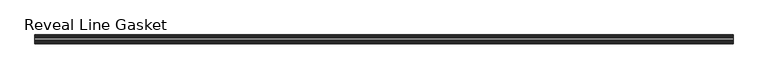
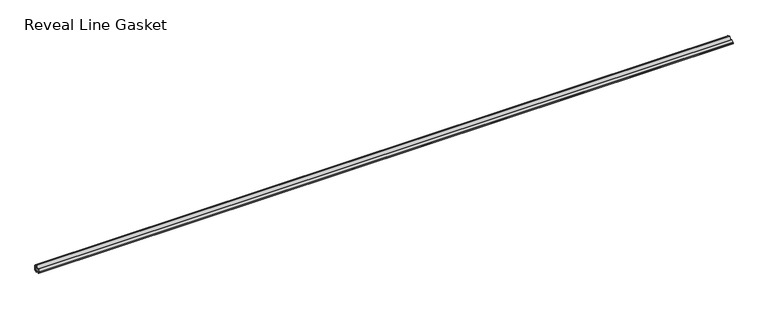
"""IFC4 building model written with IfcOpenShell, lengths in millimetres: proxy geometry, Accessories-Teknion-FHGR-AI_Healthcare-Reveal_Line_Gasket(Horizontal)-R2022 : Reveal Line Gasket."""

from ifc_helpers import new_model, si_unit, point, frame, frame_2d, origin, place, context, project, spatial, polyline, circle_curve, trimmed, segment, composite_curve, outline, extrude, source, transform, mapped, element, save


def reveal_line_gasket_ab5276f5(model_context):
    return source(origin(), model_context, "Body", "SweptSolid", [
        extrude(outline(composite_curve([segment(polyline([(7.6326998, 1603.2), (7.6326998, 1597.2), (7.4091917, 1596.2445073), (6.8813059, 1595.3115316)]), True, "CONTINUOUS"), segment(trimmed(circle_curve(frame_2d((6.5243141, 1595.5135207)), 0.4101739), [point((6.8813059, 1595.3115316))], [point((6.1246704, 1595.6058653))], False, "CARTESIAN"), True, "CONTINUOUS"), segment(polyline([(6.1246704, 1595.6058653), (6.3626997, 1597.3020914), (6.3626997, 1599.3345473)]), True, "CONTINUOUS"), segment(trimmed(circle_curve(frame_2d((5.6959605, 1598.9180742)), 0.786124), [point((6.3626997, 1599.3345473))], [point((5.0926996, 1599.422125))], True, "CARTESIAN"), True, "CONTINUOUS"), segment(polyline([(5.0926996, 1599.422125), (0.7492996, 1599.422125), (3.7293824, 1594.2604705)]), True, "CONTINUOUS"), segment(trimmed(circle_curve(frame_2d((3.3132479, 1594.1950239)), 0.4212495), [point((3.7293824, 1594.2604705))], [point((3.0485022, 1593.8673642))], False, "CARTESIAN"), True, "CONTINUOUS"), segment(polyline([(3.0485022, 1593.8673642), (-0.5742594, 1599.422125), (-4.8262978, 1599.422125), (-3.1660374, 1596.5464703)]), True, "CONTINUOUS"), segment(trimmed(circle_curve(frame_2d((-3.5978728, 1596.4881145)), 0.4357605), [point((-3.1660374, 1596.5464703))], [point((-3.864328, 1596.1433119))], False, "CARTESIAN"), True, "CONTINUOUS"), segment(polyline([(-3.864328, 1596.1433119), (-6.1944059, 1599.422125), (-7.6326998, 1599.422125), (-7.6326998, 1600.977875), (-6.1944059, 1600.977875), (-3.864328, 1604.2566881)]), True, "CONTINUOUS"), segment(trimmed(circle_curve(frame_2d((-3.5978728, 1603.9118855)), 0.4357605), [point((-3.864328, 1604.2566881))], [point((-3.1660374, 1603.8535297))], False, "CARTESIAN"), True, "CONTINUOUS"), segment(polyline([(-3.1660374, 1603.8535297), (-4.8262978, 1600.977875), (-0.5742594, 1600.977875), (3.0485022, 1606.5326358)]), True, "CONTINUOUS"), segment(trimmed(circle_curve(frame_2d((3.3132479, 1606.2049761)), 0.4212495), [point((3.0485022, 1606.5326358))], [point((3.7293824, 1606.1395295))], False, "CARTESIAN"), True, "CONTINUOUS"), segment(polyline([(3.7293824, 1606.1395295), (0.7492996, 1600.977875), (5.0926996, 1600.977875)]), True, "CONTINUOUS"), segment(trimmed(circle_curve(frame_2d((5.6959605, 1601.4819258)), 0.786124), [point((5.0926996, 1600.977875))], [point((6.3626997, 1601.0654527))], True, "CARTESIAN"), True, "CONTINUOUS"), segment(polyline([(6.3626997, 1601.0654527), (6.3626997, 1603.0979086), (6.1246704, 1604.7941347)]), True, "CONTINUOUS"), segment(trimmed(circle_curve(frame_2d((6.5243141, 1604.8864793)), 0.4101739), [point((6.1246704, 1604.7941347))], [point((6.8813059, 1605.0884684))], False, "CARTESIAN"), True, "CONTINUOUS"), segment(polyline([(6.8813059, 1605.0884684), (7.4091917, 1604.1554927), (7.6326998, 1603.2)]), True, "CONTINUOUS")], self_intersect=False)), frame((-607.7204, 0.0, 0.0), z_axis=(1.0, 0.0, 0.0), x_axis=(0.0, 1.0, 0.0)), (0.0, 0.0, 1.0), 1215.4408),
    ])


if __name__ == "__main__":
    model = new_model("IFC4")
    model_context = context("Model", 3, world=origin())
    ifc_project = project(units=[si_unit("LENGTHUNIT", "METRE", prefix="MILLI")], contexts=[model_context])
    site = spatial("IfcSite", under=ifc_project)
    building = spatial("IfcBuilding", under=site)
    placement = place(None, origin())
    reveal_line_gasket_shape = reveal_line_gasket_ab5276f5(model_context)
    element("IfcBuildingElementProxy", 1, Name="Accessories-Teknion-FHGR-AI_Healthcare-Reveal_Line_Gasket(Horizontal)-R2022 : Reveal Line Gasket", ObjectType="Accessories-Teknion-FHGR-AI_Healthcare-Reveal_Line_Gasket(Horizontal)-R2022 : Reveal Line Gasket", at=placement, inside=building, context=model_context, shape_type="MappedRepresentation", body=[
        mapped(reveal_line_gasket_shape, transform((0.0, 0.0, 0.0), x_axis=(1.0, 0.0, 0.0), y_axis=(0.0, 1.0, 0.0), z_axis=(0.0, 0.0, 1.0))),
    ])
    save(model, "model.ifc")
